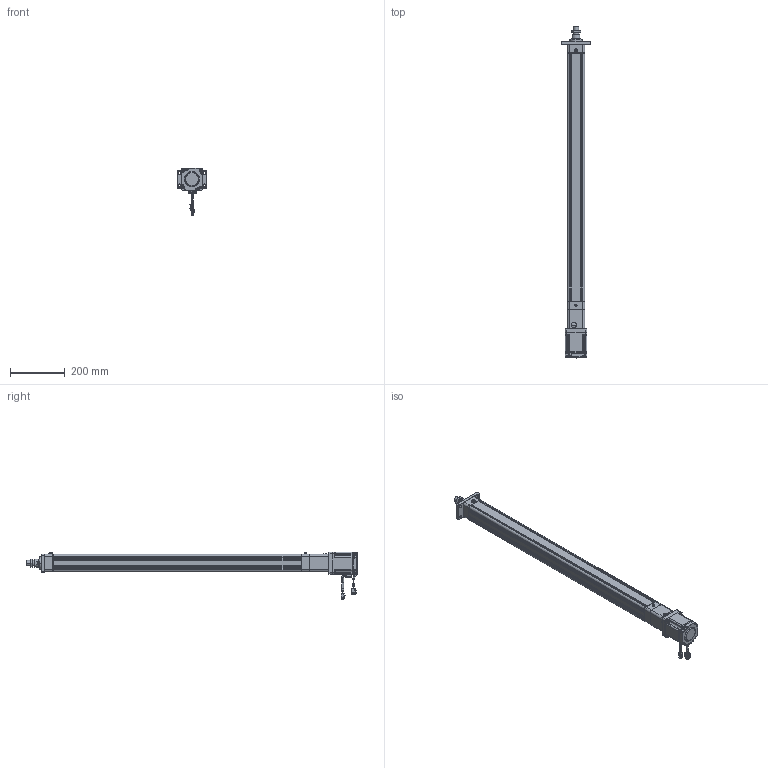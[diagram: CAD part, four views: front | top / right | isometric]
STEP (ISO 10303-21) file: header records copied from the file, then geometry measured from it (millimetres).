
FILE_DESCRIPTION((''),'2;1');
FILE_NAME('HE50-D-100-X1_ASM','2020-04-16T',('ASUS20200'),(''),'CREO PARAMETRIC BY PTC INC, 2014190','CREO PARAMETRIC BY PTC INC, 2014190','');
FILE_SCHEMA(('CONFIG_CONTROL_DESIGN'));
Length unit declared in the file: millimetre
Products named in the file (27): HE50-D-P-001-X1; HE50-D-P-002-X1; HE50-D-P-003-X1; HE50-D-009-X1; HE50-D-010-X1; 6301ZZ; LGLM-M8-22; SKT-16; SLM-01; YZ-M6X1; _MHMF082L1A2; _CABLE_MOTOR_BOTTOM_05; _CABLE_MOTOR_TOP_05; _MOTOR_CONNECTOR_2; _CABLE_BRAKE_BOTTOM_05; _CABLE_BRAKE_TOP_05; _MHMF_CONNECTOR_9_PIN_A6; MHMF082L1A2M2_1_ASM; M6X16; JX6X6X20; JDB303820; HE50-D-P-005-X1; HE50-D-P-004-X1; HE50-D-P-008-X1; F-SE50FA; M8X16; HE50-D-100-X1_ASM
Assembly tree (39 placements, depth 3):
  HE50-D-100-X1_ASM
    HE50-D-P-001-X1
    HE50-D-P-002-X1
    HE50-D-P-003-X1
    HE50-D-009-X1
    HE50-D-010-X1
    6301ZZ
    LGLM-M8-22  x8
    SKT-16
    SLM-01
    YZ-M6X1
    MHMF082L1A2M2_1_ASM
      _MHMF082L1A2
      _CABLE_MOTOR_BOTTOM_05
      _CABLE_MOTOR_TOP_05
      _MOTOR_CONNECTOR_2
      _CABLE_BRAKE_BOTTOM_05
      _CABLE_BRAKE_TOP_05
      _MHMF_CONNECTOR_9_PIN_A6
    M6X16  x4
    JX6X6X20
    JDB303820
    HE50-D-P-005-X1
    HE50-D-P-004-X1
    HE50-D-P-008-X1
    F-SE50FA
    M8X16  x4
Bounding box: 108 x 1208.4 x 173.65 mm (x, y, z)
Volume: 2669846.3 mm3; surface area: 779666.6 mm2
Topology: 38 solids, 66 shells, 2658 faces, 6433 edges, 3989 vertices
Faces by surface type: plane 1121, cylinder 763, cone 609, torus 118, sphere 44, bspline 3
Entity records: 68431 total; most frequent: CARTESIAN_POINT 12858, DIRECTION 12179, ORIENTED_EDGE 10954, EDGE_CURVE 5523, AXIS2_PLACEMENT_3D 4549, VERTEX_POINT 3448, VECTOR 3081, LINE 3081
